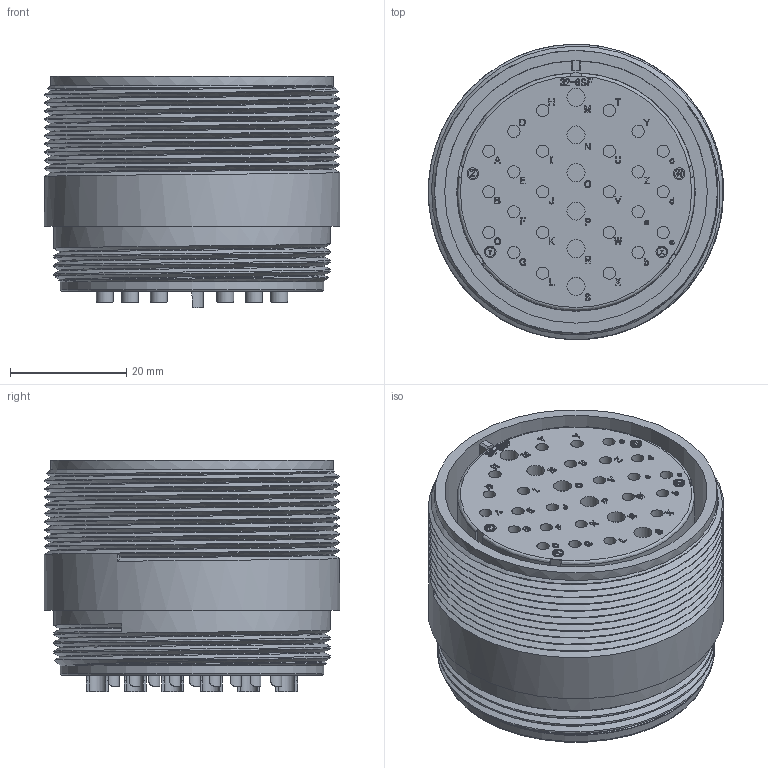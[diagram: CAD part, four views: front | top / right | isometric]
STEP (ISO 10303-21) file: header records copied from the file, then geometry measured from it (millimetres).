
FILE_DESCRIPTION (( 'STEP AP203' ), '1' );
FILE_NAME ('DMS3101A32-8S(D263).STEP', '2022-02-15T08:33:51', ( '' ), ( '' ), 'SwSTEP 2.0', 'SolidWorks 2018', '' );
FILE_SCHEMA (( 'CONFIG_CONTROL_DESIGN' ));
Length unit declared in the file: millimetre
Products named in the file (1): DMS3101A32-8S(D263)
Bounding box: 50.76 x 50.76 x 39.78 mm (x, y, z)
Volume: 59077 mm3; surface area: 24208.3 mm2
Topology: 1 solids, 1 shells, 2074 faces, 5558 edges, 3709 vertices
Faces by surface type: plane 1183, bspline 637, cylinder 250, torus 2, cone 2
Full cylindrical faces by diameter (mm): 1.6 x4, 2 x4, 2.11 x24, 2.85 x6, 3.1 x6, 3.79 x6, 3.9 x6, 38.1 x1, 41 x1, 42.93 x1, 45.12 x1, 45.3 x1, 47.58 x3, 48.6 x1, 50.76 x9
Entity records: 85469 total; most frequent: CARTESIAN_POINT 38903, ORIENTED_EDGE 10840, DIRECTION 7094, EDGE_CURVE 5420, VERTEX_POINT 3651, VECTOR 3498, LINE 3498, EDGE_LOOP 2353
